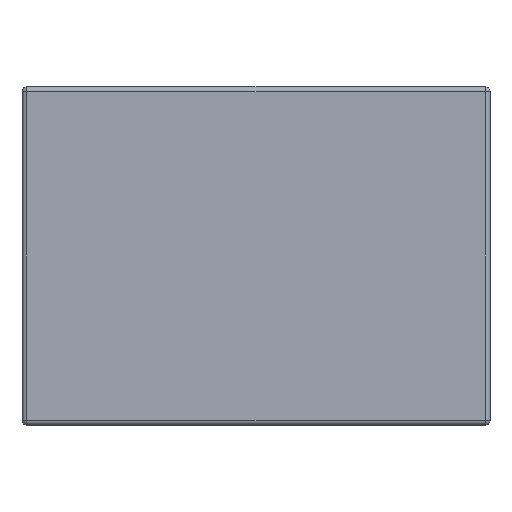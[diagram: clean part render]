
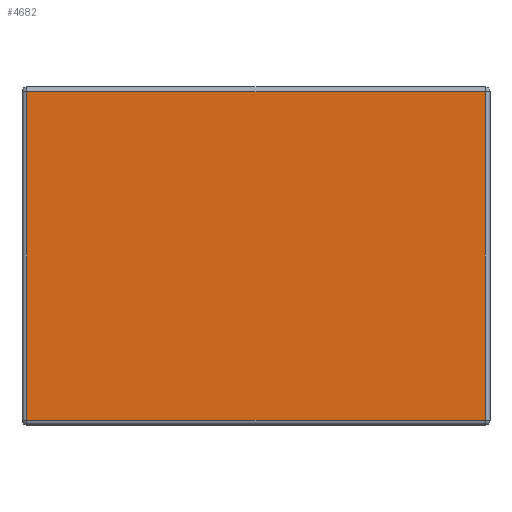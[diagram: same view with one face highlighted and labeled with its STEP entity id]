
A CAD part, front view. The second image highlights one B-rep face of the part: STEP entity #4682.
In plain terms, the highlighted planar face has unit normal (0, -1, 0).
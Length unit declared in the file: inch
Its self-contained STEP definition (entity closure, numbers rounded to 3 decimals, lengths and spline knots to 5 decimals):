
#12 = CARTESIAN_POINT ( 'NONE',  ( -0.09055, 0., 0.06496 ) ) ;
#257 = ORIENTED_EDGE ( 'NONE', *, *, #4159, .T. ) ;
#431 = CARTESIAN_POINT ( 'NONE',  ( 0., 0., 0. ) ) ;
#715 = EDGE_CURVE ( 'NONE', #5755, #2126, #5758, .T. ) ;
#864 = DIRECTION ( 'NONE',  ( 0., 0., 1. ) ) ;
#878 = CARTESIAN_POINT ( 'NONE',  ( 0.09055, 0., 0. ) ) ;
#994 = VECTOR ( 'NONE', #4912, 39.37008 ) ;
#1049 = ORIENTED_EDGE ( 'NONE', *, *, #715, .T. ) ;
#1176 = DIRECTION ( 'NONE',  ( 0., 0., -1. ) ) ;
#1194 = DIRECTION ( 'NONE',  ( 1., 0., 0. ) ) ;
#1197 = VECTOR ( 'NONE', #2678, 39.37008 ) ;
#1320 = CARTESIAN_POINT ( 'NONE',  ( 0., 0., -0.06496 ) ) ;
#1423 = LINE ( 'NONE', #878, #1197 ) ;
#1623 = CARTESIAN_POINT ( 'NONE',  ( -0.09055, 0., 0. ) ) ;
#2126 = VERTEX_POINT ( 'NONE', #3263 ) ;
#2294 = VERTEX_POINT ( 'NONE', #5805 ) ;
#2642 = EDGE_LOOP ( 'NONE', ( #3969, #1049, #3418, #257 ) ) ;
#2678 = DIRECTION ( 'NONE',  ( 0., 0., 1. ) ) ;
#2722 = FACE_OUTER_BOUND ( 'NONE', #2642, .T. ) ;
#3054 = LINE ( 'NONE', #1320, #3200 ) ;
#3151 = DIRECTION ( 'NONE',  ( 0., 1., 0. ) ) ;
#3200 = VECTOR ( 'NONE', #1194, 39.37008 ) ;
#3263 = CARTESIAN_POINT ( 'NONE',  ( -0.09055, 0., -0.06496 ) ) ;
#3350 = CARTESIAN_POINT ( 'NONE',  ( 0.09055, 0., -0.06496 ) ) ;
#3418 = ORIENTED_EDGE ( 'NONE', *, *, #3657, .T. ) ;
#3569 = VERTEX_POINT ( 'NONE', #3350 ) ;
#3604 = PLANE ( 'NONE',  #5874 ) ;
#3657 = EDGE_CURVE ( 'NONE', #2126, #3569, #3054, .T. ) ;
#3969 = ORIENTED_EDGE ( 'NONE', *, *, #4058, .T. ) ;
#4058 = EDGE_CURVE ( 'NONE', #2294, #5755, #5857, .T. ) ;
#4159 = EDGE_CURVE ( 'NONE', #3569, #2294, #1423, .T. ) ;
#4682 = ADVANCED_FACE ( 'NONE', ( #2722 ), #3604, .F. ) ;
#4912 = DIRECTION ( 'NONE',  ( -1., 0., 0. ) ) ;
#5129 = VECTOR ( 'NONE', #1176, 39.37008 ) ;
#5755 = VERTEX_POINT ( 'NONE', #12 ) ;
#5758 = LINE ( 'NONE', #1623, #5129 ) ;
#5768 = CARTESIAN_POINT ( 'NONE',  ( 0., 0., 0.06496 ) ) ;
#5805 = CARTESIAN_POINT ( 'NONE',  ( 0.09055, 0., 0.06496 ) ) ;
#5857 = LINE ( 'NONE', #5768, #994 ) ;
#5874 = AXIS2_PLACEMENT_3D ( 'NONE', #431, #3151, #864 ) ;
